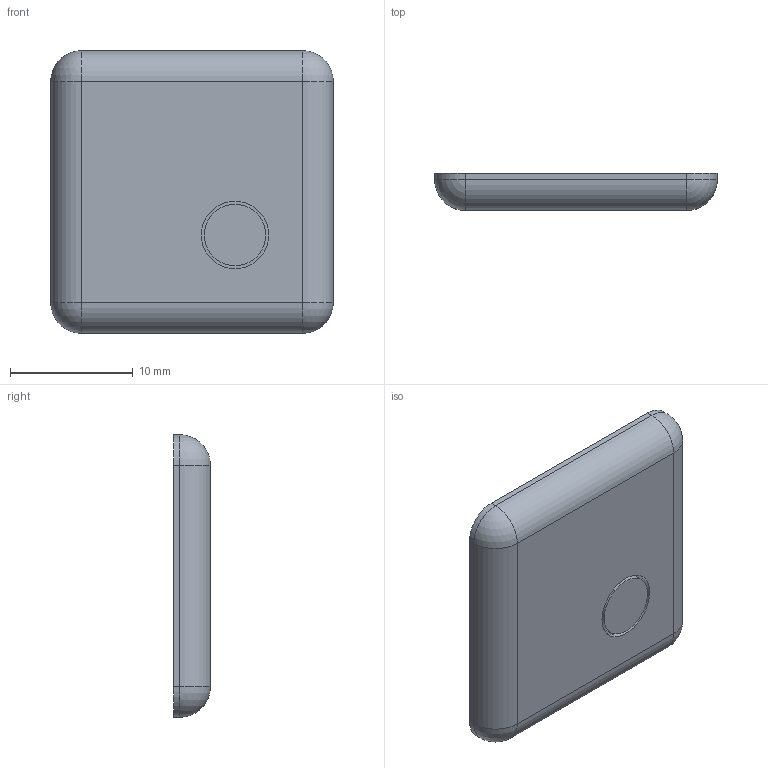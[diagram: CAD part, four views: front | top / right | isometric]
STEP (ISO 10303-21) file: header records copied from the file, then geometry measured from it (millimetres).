
FILE_DESCRIPTION((''),'2;1');
FILE_NAME('C:\Documents and Settings\Administrator\My Documents\Andys Backup Data\ANDY''S INVENTOR\INVENTOR LIBRARIES\PARTS LIBRARY\30 SERIES\22.0992_1 END CAP 23X23 GRAY.stp','2012-07-26T11:13:21',('Administrator'),(''),'Autodesk Inventor 2009','Autodesk Inventor 2009','');
FILE_SCHEMA(('AUTOMOTIVE_DESIGN { 1 0 10303 214 1 1 1 1 }'));
Length unit declared in the file: millimetre
Products named in the file (1): 22.0992_1 END CAP 23X23 GRAY
Bounding box: 23 x 3 x 23 mm (x, y, z)
Volume: 1455.9 mm3; surface area: 1230 mm2
Topology: 1 solids, 1 shells, 22 faces, 46 edges, 24 vertices
Faces by surface type: cylinder 10, plane 8, sphere 4
Full cylindrical faces by diameter (mm): 5 x1, 5.5 x1
Entity records: 566 total; most frequent: DIRECTION 106, CARTESIAN_POINT 87, ORIENTED_EDGE 80, AXIS2_PLACEMENT_3D 43, EDGE_CURVE 40, EDGE_LOOP 26, VERTEX_POINT 24, FACE_OUTER_BOUND 22
